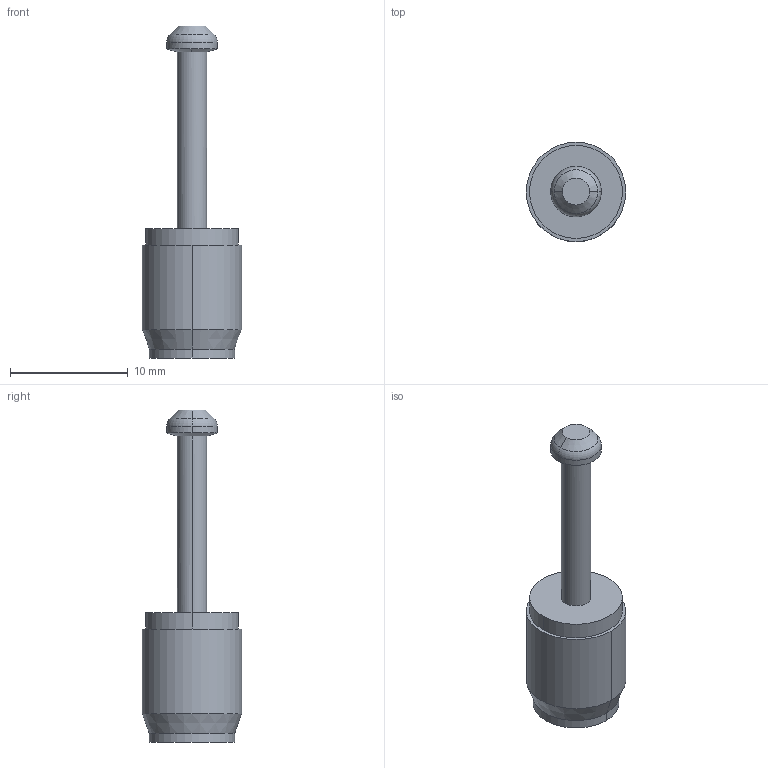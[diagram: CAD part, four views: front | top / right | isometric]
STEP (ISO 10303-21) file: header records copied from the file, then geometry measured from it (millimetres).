
FILE_DESCRIPTION (( 'STEP AP214' ), '1' );
FILE_NAME ('Frontstabilisator_D8.STEP', '2014-08-21T07:36:47', ( '' ), ( '' ), 'SwSTEP 2.0', 'SolidWorks 2013', '' );
FILE_SCHEMA (( 'AUTOMOTIVE_DESIGN' ));
Length unit declared in the file: millimetre
Products named in the file (1): Frontstabilisator_D8
Bounding box: 8.45 x 8.45 x 28.22 mm (x, y, z)
Volume: 682.4 mm3; surface area: 538 mm2
Topology: 1 solids, 1 shells, 22 faces, 46 edges, 28 vertices
Faces by surface type: cylinder 10, cone 4, plane 4, torus 2, sphere 2
Entity records: 632 total; most frequent: DIRECTION 124, CARTESIAN_POINT 97, ORIENTED_EDGE 92, AXIS2_PLACEMENT_3D 55, EDGE_CURVE 46, CIRCLE 32, VERTEX_POINT 28, EDGE_LOOP 24
